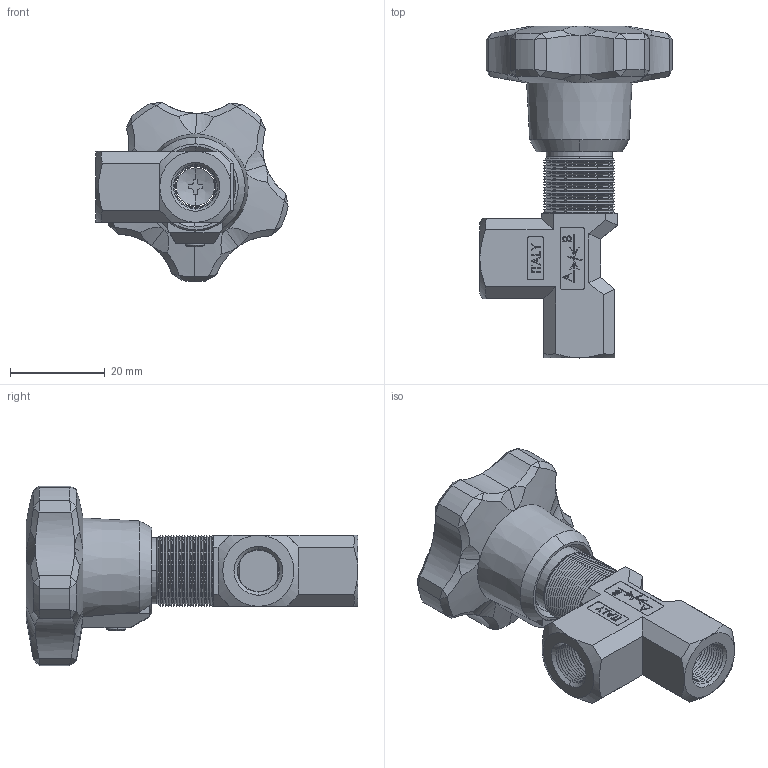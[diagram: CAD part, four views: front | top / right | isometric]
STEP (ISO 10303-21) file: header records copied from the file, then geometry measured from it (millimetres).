
FILE_DESCRIPTION (( 'STEP AP214' ), '1' );
FILE_NAME ('2252-2-18 VOLANTINO ABS F-F.STEP', '2015-05-19T15:17:29', ( '' ), ( '' ), 'SwSTEP 2.0', 'SolidWorks 2014', '' );
FILE_SCHEMA (( 'AUTOMOTIVE_DESIGN' ));
Length unit declared in the file: millimetre
Products named in the file (1): 2252-2-18 VOLANTINO ABS F-F
Bounding box: 40.58 x 70 x 37.8 mm (x, y, z)
Surface area: 9122.9 mm2 (no closed solid volume)
Topology: 0 solids, 17 shells, 564 faces, 1612 edges, 1026 vertices
Faces by surface type: plane 258, cone 178, cylinder 67, bspline 59, sphere 2
Entity records: 30375 total; most frequent: CARTESIAN_POINT 10180, ORIENTED_EDGE 2831, DIRECTION 2687, EDGE_CURVE 1612, VERTEX_POINT 1026, VECTOR 989, LINE 989, AXIS2_PLACEMENT_3D 849
